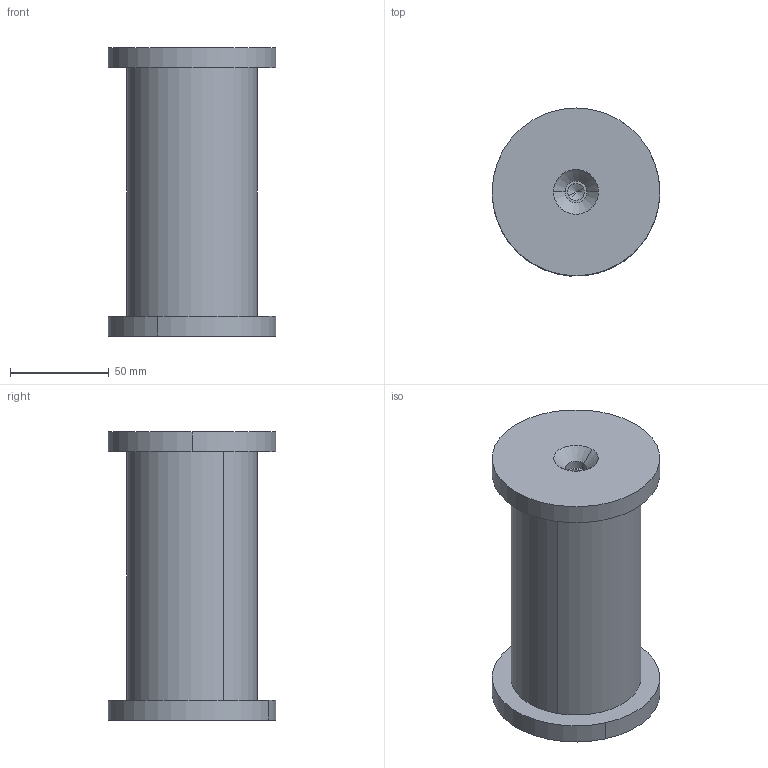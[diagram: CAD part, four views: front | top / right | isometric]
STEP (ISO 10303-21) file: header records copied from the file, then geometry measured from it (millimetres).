
FILE_DESCRIPTION (( 'STEP AP203' ), '1' );
FILE_NAME ('Bolzen Scheibe A M64.STEP', '2018-02-20T07:38:32', ( 'install' ), ( 'Hewlett-Packard Company' ), 'SwSTEP 2.0', 'SolidWorks 2017', '' );
FILE_SCHEMA (( 'CONFIG_CONTROL_DESIGN' ));
Length unit declared in the file: millimetre
Products named in the file (3): Scheibe_M64; Bolzen ScheibeVarA_generisch_M64; Bolzen Scheibe A M64
Assembly tree (3 placements, depth 2):
  Bolzen Scheibe A M64
    Scheibe_M64  x2
    Bolzen ScheibeVarA_generisch_M64
Bounding box: 85 x 85 x 146 mm (x, y, z)
Volume: 538090 mm3; surface area: 62539.9 mm2
Topology: 3 solids, 3 shells, 28 faces, 58 edges, 34 vertices
Faces by surface type: cylinder 14, cone 8, plane 6
Entity records: 853 total; most frequent: DIRECTION 112, CARTESIAN_POINT 88, ORIENTED_EDGE 76, AXIS2_PLACEMENT_3D 48, EDGE_CURVE 38, PERSON_AND_ORGANIZATION 27, VERTEX_POINT 24, EDGE_LOOP 24
